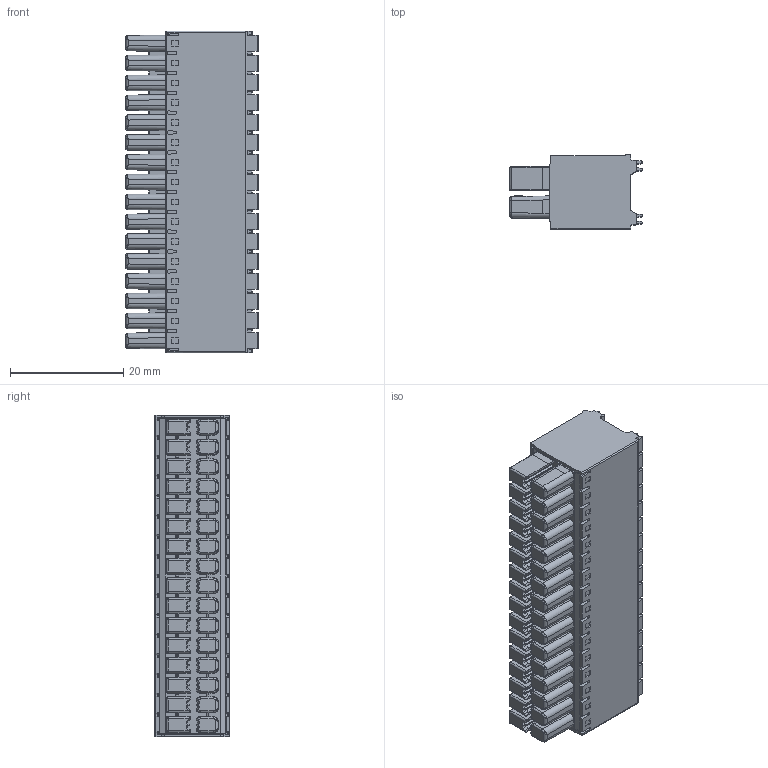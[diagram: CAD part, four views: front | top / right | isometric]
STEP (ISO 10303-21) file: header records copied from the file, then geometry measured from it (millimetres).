
FILE_DESCRIPTION( (''), '2;1');
FILE_NAME ('YS8Z-CN32.stp','2022-12-01T14:59:48',(''),(''),'spGate 12.6.6','','');
FILE_SCHEMA (('AUTOMOTIVE_DESIGN'));
Length unit declared in the file: millimetre
Bounding box: 23.35 x 13.25 x 56.8 mm (x, y, z)
Volume: 11675 mm3; surface area: 9898.4 mm2
Topology: 1 solids, 1 shells, 2739 faces, 7232 edges, 4559 vertices
Faces by surface type: plane 1480, cylinder 935, bspline 324
Entity records: 156287 total; most frequent: CARTESIAN_POINT 32706, ORIENTED_EDGE 14336, DIRECTION 13302, COLOUR_RGB 9908, PRESENTATION_STYLE_ASSIGNMENT 9908, STYLED_ITEM 9908, EDGE_CURVE 7168, DRAUGHTING_PRE_DEFINED_CURVE_FONT 7168
